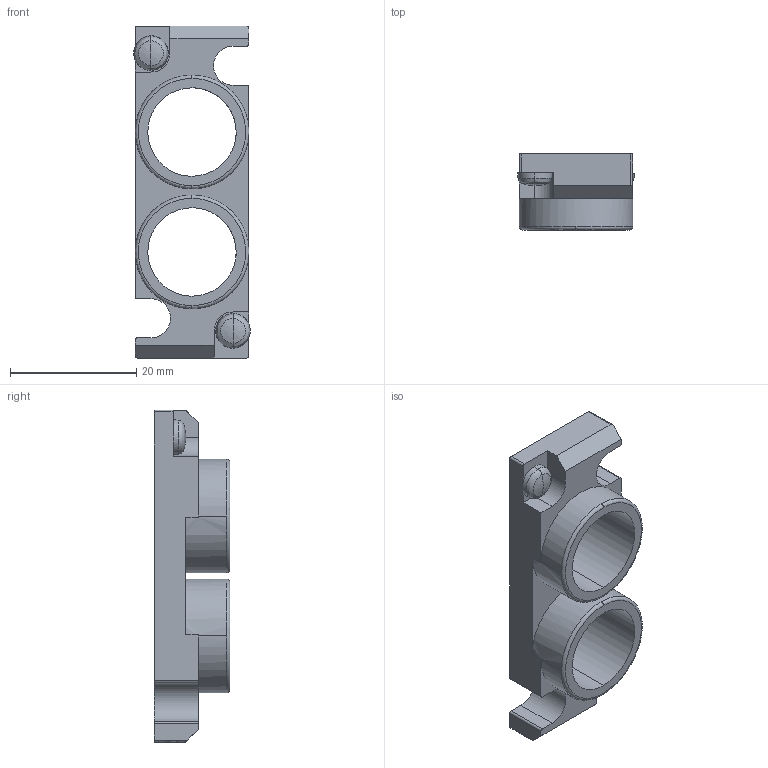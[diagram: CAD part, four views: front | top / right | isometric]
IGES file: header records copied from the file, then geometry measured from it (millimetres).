
Start section: ------------------------------------------------------------------------
Global section: file name: D:\ICADMX\tmp\trans3d_spg\CVICAD02.6676.F15_Port-PM_16586.igs; native system: spGate; preprocessor: ver12.6.6; author: Unknown; organization: Unknown; date: 210712.184745; units: millimetre
Bounding box: 18.5 x 12 x 52.6 mm (x, y, z)
Volume: 4589.9 mm3; surface area: 3890.2 mm2
Topology: 1 solids, 1 shells, 62 faces, 176 edges, 112 vertices
Faces by surface type: bspline 62
